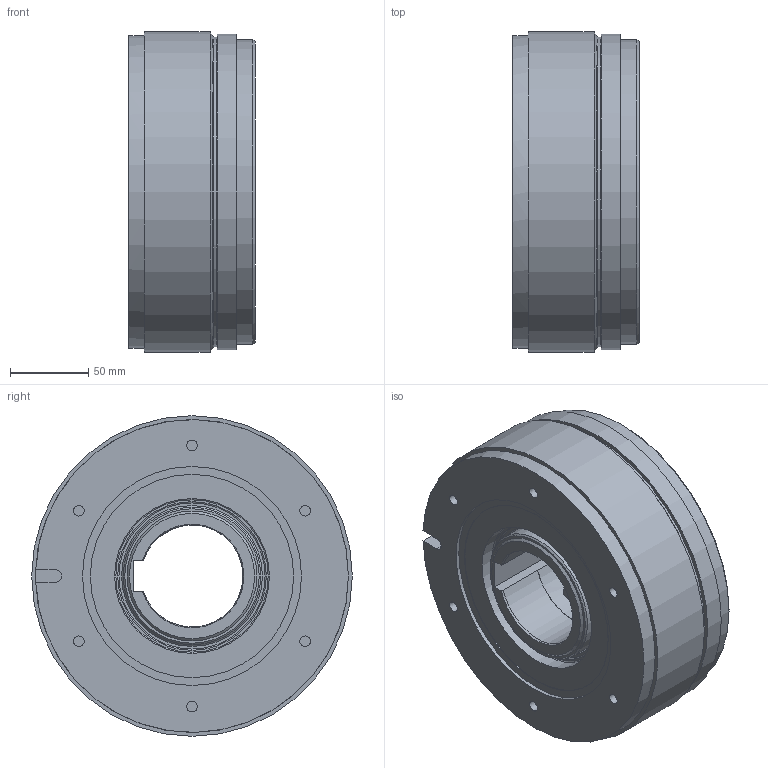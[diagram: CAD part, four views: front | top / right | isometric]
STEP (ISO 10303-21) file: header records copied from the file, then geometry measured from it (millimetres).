
FILE_DESCRIPTION (( 'STEP AP214' ), '1' );
FILE_NAME ('86 61121Px_PF-ID 94019_Index d.STEP', '2020-02-06T10:46:08', ( '' ), ( '' ), 'SwSTEP 2.0', 'SolidWorks 2018', '' );
FILE_SCHEMA (( 'AUTOMOTIVE_DESIGN' ));
Length unit declared in the file: millimetre
Products named in the file (1): 86 61121Px_PF-ID 94019_Index d
Bounding box: 80.8 x 205 x 205 mm (x, y, z)
Volume: 2202920.5 mm3; surface area: 212003 mm2
Topology: 2 solids, 2 shells, 69 faces, 131 edges, 84 vertices
Faces by surface type: plane 29, cylinder 28, cone 8, torus 4
Full cylindrical faces by diameter (mm): 6.8 x6, 10.2 x3, 80 x1, 88 x1, 90 x1, 95 x1, 99 x1, 100 x1, 103 x1, 130 x1, 140 x1, 168.2 x1, 195 x1, 198 x1, 200 x1, 202 x1, 205 x1
Entity records: 2126 total; most frequent: CARTESIAN_POINT 693, DIRECTION 282, ORIENTED_EDGE 186, AXIS2_PLACEMENT_3D 130, EDGE_LOOP 130, FACE_OUTER_BOUND 96, EDGE_CURVE 93, VERTEX_POINT 81
